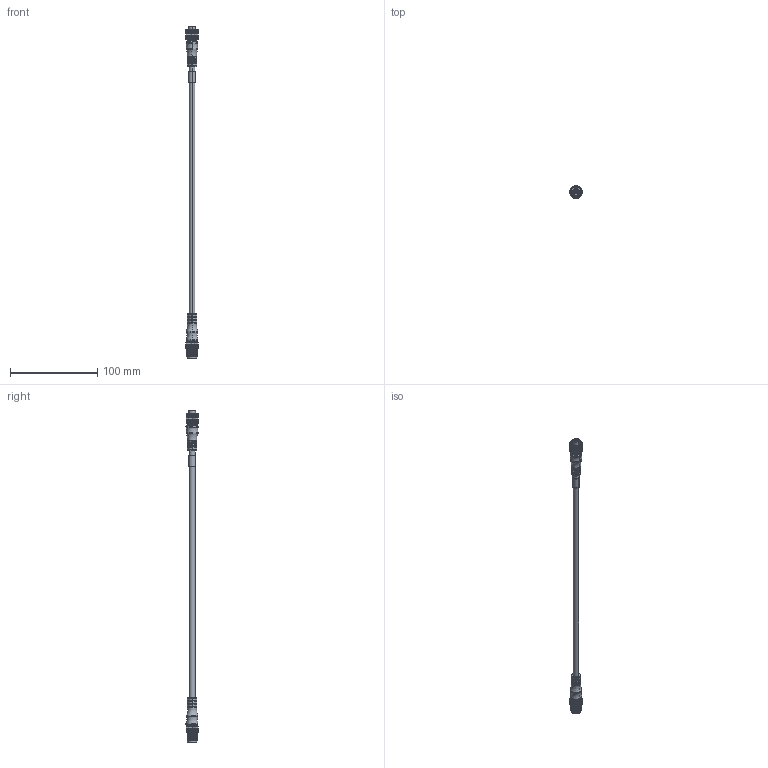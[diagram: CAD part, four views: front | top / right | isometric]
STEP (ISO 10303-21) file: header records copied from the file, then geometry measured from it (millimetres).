
FILE_DESCRIPTION((''),'2;1');
FILE_NAME('889D-B4AEDM-2','2014-01-28T',('20019289'),('Rockwell Automation'),'PRO/ENGINEER BY PARAMETRIC TECHNOLOGY CORPORATION, 2010140','PRO/ENGINEER BY PARAMETRIC TECHNOLOGY CORPORATION, 2010140','');
FILE_SCHEMA(('CONFIG_CONTROL_DESIGN'));
Length unit declared in the file: inch
Products named in the file (1): 889D-B4AEDM-2
Bounding box: 14 x 14.25 x 381 mm (x, y, z)
Volume: 19680.6 mm3; surface area: 12648.6 mm2
Topology: 1 solids, 1 shells, 1058 faces, 2611 edges, 1584 vertices
Faces by surface type: plane 492, cylinder 402, cone 112, torus 52
Entity records: 32051 total; most frequent: CARTESIAN_POINT 6654, DIRECTION 5593, ORIENTED_EDGE 5222, EDGE_CURVE 2611, AXIS2_PLACEMENT_3D 2155, VERTEX_POINT 1584, VECTOR 1283, LINE 1283
